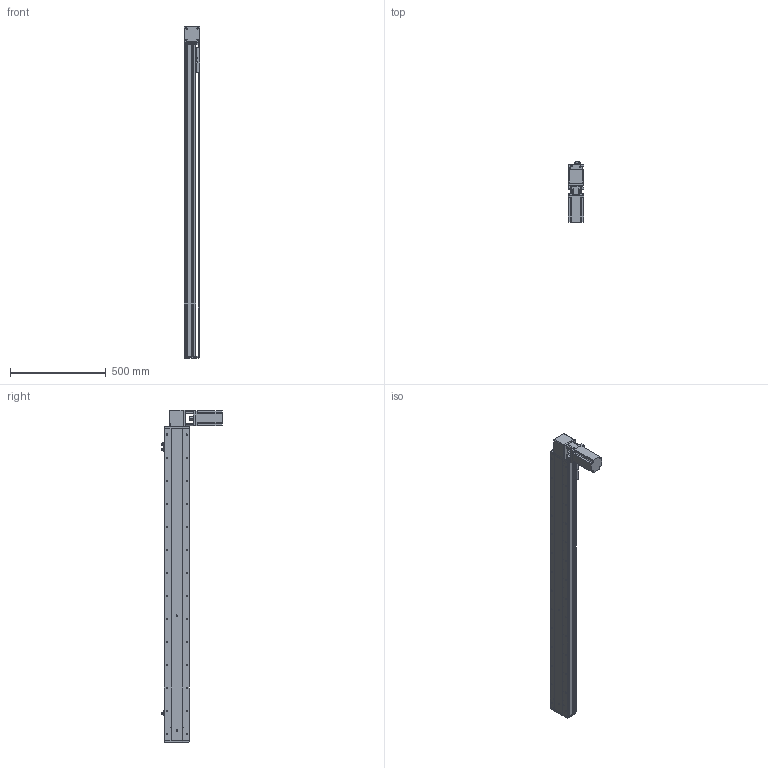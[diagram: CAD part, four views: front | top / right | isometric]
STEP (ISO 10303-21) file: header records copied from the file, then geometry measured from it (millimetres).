
FILE_DESCRIPTION (( 'STEP AP203' ), '1' );
FILE_NAME ('KSD130B-S1400-MLT-CM.STEP', '2019-09-23T07:31:15', ( '微软用户' ), ( '微软中国' ), 'SwSTEP 2.0', 'SolidWorks 2014', '' );
FILE_SCHEMA (( 'CONFIG_CONTROL_DESIGN' ));
Length unit declared in the file: millimetre
Products named in the file (12): 130宽安装板同步带带电机座750W; U倰嫖萇EEㄜSX672; 覜茼え100遵圉猾敕; 130宽底板半封闭同步带-1400行程; 130宽马达安装板1-带电机座750W（1）; 130宽端盖同步带半封闭; 台达ECMA－C20807AS伺服电机; 130宽同步带安装座半封闭; KSD130B-S1400-MLT-CM; 130宽马达安装板同步带半封闭; 130宽马达安装板同步带左-改; 130宽盖板半封闭同步带-1400行程
Assembly tree (13 placements, depth 2):
  KSD130B-S1400-MLT-CM
    130宽底板半封闭同步带-1400行程
    130宽端盖同步带半封闭
    130宽同步带安装座半封闭
    130宽马达安装板同步带半封闭
    130宽马达安装板同步带左-改
    130宽盖板半封闭同步带-1400行程
    130宽安装板同步带带电机座750W
    U倰嫖萇EEㄜSX672  x3
    覜茼え100遵圉猾敕
    130宽马达安装板1-带电机座750W（1）
    台达ECMA－C20807AS伺服电机
Bounding box: 81 x 316 x 1733 mm (x, y, z)
Volume: 6042451.8 mm3; surface area: 1644055.2 mm2
Topology: 14 solids, 14 shells, 1627 faces, 4692 edges, 2981 vertices
Faces by surface type: cylinder 797, plane 621, cone 209
Entity records: 50056 total; most frequent: CARTESIAN_POINT 10387, DIRECTION 8262, ORIENTED_EDGE 7964, EDGE_CURVE 3982, AXIS2_PLACEMENT_3D 3048, VERTEX_POINT 2605, VECTOR 2166, LINE 2166
